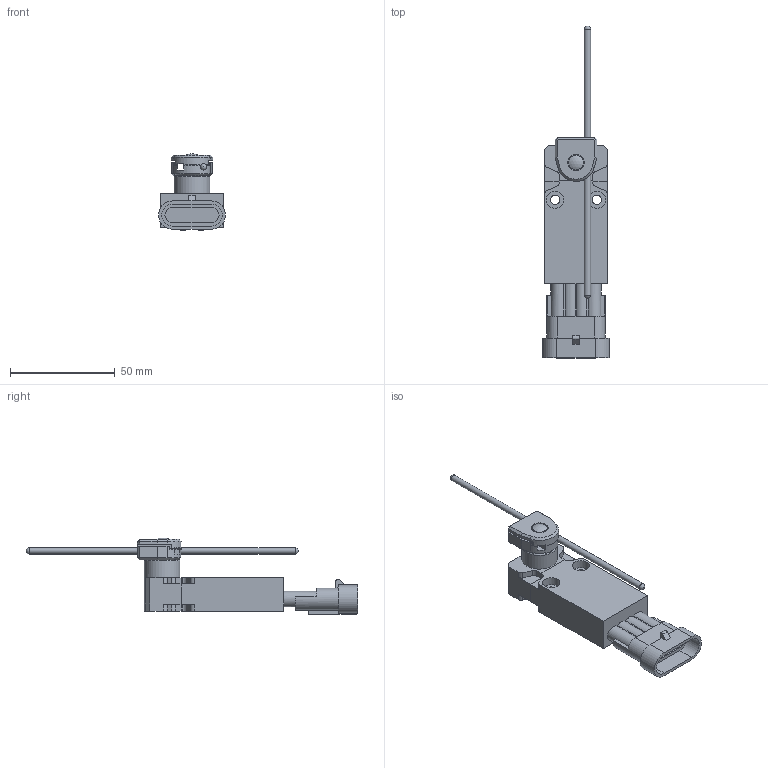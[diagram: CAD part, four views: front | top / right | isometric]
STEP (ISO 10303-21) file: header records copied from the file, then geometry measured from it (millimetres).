
FILE_DESCRIPTION(/* description */ (''),/* implementation_level */ '2;1');
FILE_NAME(/* name */ 'C:\Users\servizio.tecnico\Desktop\CADENAS\3D\EP1_STP\STP_EP1_G71A.stp',/* time_stamp */ '2017-09-04T10:14:30+02:00',/* author */ ('servizio.tecnico'),/* organization */ (''),/* preprocessor_version */ 'ST-DEVELOPER v16.1',/* originating_system */ 'Autodesk Inventor 2016',/* authorisation */ '');
FILE_SCHEMA (('AUTOMOTIVE_DESIGN { 1 0 10303 214 3 1 1 }'));
Length unit declared in the file: millimetre
Products named in the file (3): Product; EP1G71-A; BASE ASSI 
Assembly tree (2 placements, depth 3):
  BASE ASSI 
    EP1G71-A
      Product
Bounding box: 32 x 158.5 x 36.53 mm (x, y, z)
Volume: 41093.4 mm3; surface area: 16910.6 mm2
Topology: 4 solids, 4 shells, 225 faces, 596 edges, 390 vertices
Faces by surface type: plane 159, cylinder 60, sphere 3, cone 2, torus 1
Full cylindrical faces by diameter (mm): 3 x1, 4.4 x2, 7 x1, 8 x1, 8.2 x4, 11 x1, 17 x1
Entity records: 7022 total; most frequent: CARTESIAN_POINT 1220, DIRECTION 1170, ORIENTED_EDGE 1152, EDGE_CURVE 576, LINE 438, VECTOR 438, VERTEX_POINT 384, AXIS2_PLACEMENT_3D 366
